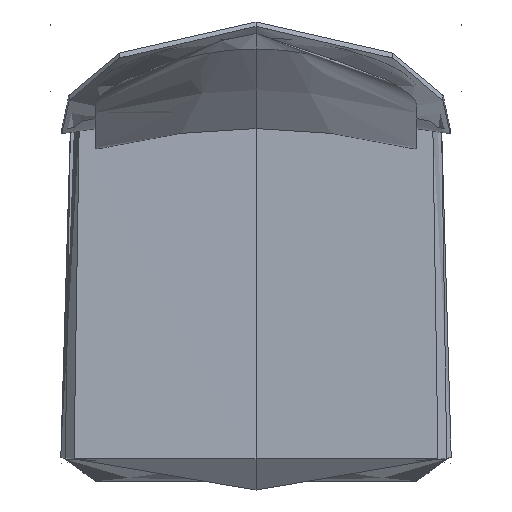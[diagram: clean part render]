
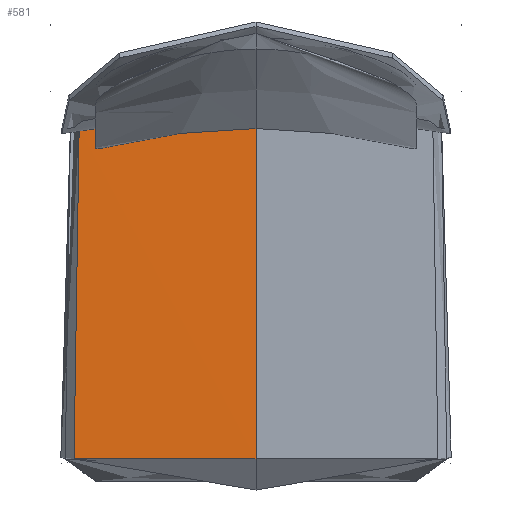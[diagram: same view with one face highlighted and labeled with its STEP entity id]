
A CAD part, top view. The second image highlights one B-rep face of the part: STEP entity #581.
In plain terms, the highlighted free-form (B-spline) face has degree [3, 3] with [4, 6] control points.
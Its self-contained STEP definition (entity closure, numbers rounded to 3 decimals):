
#581=ADVANCED_FACE('',(#1675),#20306,.T.);
#1675=FACE_OUTER_BOUND('',#2769,.T.);
#2769=EDGE_LOOP('',(#4427,#4428,#4429,#4430,#4431));
#4427=ORIENTED_EDGE('',*,*,#10788,.T.);
#4428=ORIENTED_EDGE('',*,*,#10776,.T.);
#4429=ORIENTED_EDGE('',*,*,#10777,.F.);
#4430=ORIENTED_EDGE('',*,*,#10787,.T.);
#4431=ORIENTED_EDGE('',*,*,#10795,.F.);
#10776=EDGE_CURVE('',#17204,#17206,#14080,.T.);
#10777=EDGE_CURVE('',#17205,#17206,#14081,.T.);
#10787=EDGE_CURVE('',#17205,#17212,#14091,.T.);
#10788=EDGE_CURVE('',#17214,#17204,#14092,.T.);
#10795=EDGE_CURVE('',#17214,#17212,#13928,.T.);
#13928=(
BOUNDED_CURVE()
B_SPLINE_CURVE(3,(#25692,#25693,#25694,#25695,#25696,#25697,#25698,#25699,
#25700,#25701,#25702,#25703,#25704,#25705,#25706,#25707,#25708,#25709,#25710,
#25711),.UNSPECIFIED.,.F.,.F.)
B_SPLINE_CURVE_WITH_KNOTS((4,3,3,1,1,1,1,1,1,1,3,4),(-0.392,
-0.39,6.301,10.816,15.904,21.689,
28.102,34.77,41.018,46.433,51.07,
56.446),.UNSPECIFIED.)
CURVE()
GEOMETRIC_REPRESENTATION_ITEM()
RATIONAL_B_SPLINE_CURVE((1.,1.,1.,1.,1.,1.,1.,1.,1.,1.,1.,
1.,1.,1.,1.,1.,1.,1.,1.,1.))
REPRESENTATION_ITEM('')
);
#14080=B_SPLINE_CURVE_WITH_KNOTS('',3,(#25456,#25457,#25458,#25459),
 .UNSPECIFIED.,.F.,.F.,(4,4),(0.,208.2),.UNSPECIFIED.);
#14081=B_SPLINE_CURVE_WITH_KNOTS('',3,(#25460,#25461,#25462,#25463,#25464,
#25465),.UNSPECIFIED.,.F.,.F.,(4,1,1,4),(-469.281,-336.575,
-192.091,-47.607),.UNSPECIFIED.);
#14091=B_SPLINE_CURVE_WITH_KNOTS('',3,(#25605,#25606,#25607,#25608),
 .UNSPECIFIED.,.F.,.F.,(4,4),(0.,169.177),.UNSPECIFIED.);
#14092=B_SPLINE_CURVE_WITH_KNOTS('',3,(#25609,#25610,#25611,#25612,#25613),
 .UNSPECIFIED.,.F.,.F.,(4,1,4),(235.672,614.063,616.504),
 .UNSPECIFIED.);
#17204=VERTEX_POINT('',#25426);
#17205=VERTEX_POINT('',#25427);
#17206=VERTEX_POINT('',#25428);
#17212=VERTEX_POINT('',#25434);
#17214=VERTEX_POINT('',#25436);
#20306=B_SPLINE_SURFACE_WITH_KNOTS('',3,3,((#23432,#23433,#23434,#23435,
#23436,#23437),(#23438,#23439,#23440,#23441,#23442,#23443),(#23444,#23445,
#23446,#23447,#23448,#23449),(#23450,#23451,#23452,#23453,#23454,#23455)),
 .UNSPECIFIED.,.F.,.F.,.F.,(4,4),(4,1,1,4),(0.,208.2),(47.607,
192.091,336.575,469.281),.UNSPECIFIED.);
#23432=CARTESIAN_POINT('',(-207.61,-200.8,469.081));
#23433=CARTESIAN_POINT('',(-206.89,-154.314,468.31));
#23434=CARTESIAN_POINT('',(-205.45,-61.344,466.768));
#23435=CARTESIAN_POINT('',(-203.349,74.323,464.518));
#23436=CARTESIAN_POINT('',(-201.968,163.504,463.038));
#23437=CARTESIAN_POINT('',(-201.307,206.2,462.33));
#23438=CARTESIAN_POINT('',(-138.406,-200.8,467.081));
#23439=CARTESIAN_POINT('',(-137.927,-164.428,466.478));
#23440=CARTESIAN_POINT('',(-136.967,-58.131,457.01));
#23441=CARTESIAN_POINT('',(-135.566,87.116,455.076));
#23442=CARTESIAN_POINT('',(-134.645,173.48,457.765));
#23443=CARTESIAN_POINT('',(-134.204,212.878,459.041));
#23444=CARTESIAN_POINT('',(-69.203,-200.8,466.081));
#23445=CARTESIAN_POINT('',(-68.963,-169.485,465.562));
#23446=CARTESIAN_POINT('',(-68.483,-56.525,452.131));
#23447=CARTESIAN_POINT('',(-67.783,93.513,450.355));
#23448=CARTESIAN_POINT('',(-67.323,178.468,455.129));
#23449=CARTESIAN_POINT('',(-67.102,216.217,457.396));
#23450=CARTESIAN_POINT('',(0.,-200.8,466.081));
#23451=CARTESIAN_POINT('',(0.,-169.485,465.562));
#23452=CARTESIAN_POINT('',(0.,-56.525,452.131));
#23453=CARTESIAN_POINT('',(0.,93.513,450.355));
#23454=CARTESIAN_POINT('',(0.,178.468,455.129));
#23455=CARTESIAN_POINT('',(0.,216.217,457.396));
#25426=CARTESIAN_POINT('',(-207.61,-200.8,469.081));
#25427=CARTESIAN_POINT('',(0.,216.217,457.396));
#25428=CARTESIAN_POINT('',(0.,-200.8,466.081));
#25434=CARTESIAN_POINT('',(-166.693,209.35,460.779));
#25436=CARTESIAN_POINT('',(-201.765,176.772,462.819));
#25456=CARTESIAN_POINT('',(-207.61,-200.8,469.081));
#25457=CARTESIAN_POINT('',(-138.406,-200.8,467.081));
#25458=CARTESIAN_POINT('',(-69.203,-200.8,466.081));
#25459=CARTESIAN_POINT('',(0.,-200.8,466.081));
#25460=CARTESIAN_POINT('',(0.,216.217,457.396));
#25461=CARTESIAN_POINT('',(0.,178.468,455.129));
#25462=CARTESIAN_POINT('',(0.,93.513,450.355));
#25463=CARTESIAN_POINT('',(0.,-56.525,452.131));
#25464=CARTESIAN_POINT('',(0.,-169.485,465.562));
#25465=CARTESIAN_POINT('',(0.,-200.8,466.081));
#25605=CARTESIAN_POINT('',(0.,216.217,457.396));
#25606=CARTESIAN_POINT('',(-55.652,216.219,457.396));
#25607=CARTESIAN_POINT('',(-111.239,213.917,458.528));
#25608=CARTESIAN_POINT('',(-166.693,209.35,460.779));
#25609=CARTESIAN_POINT('',(-201.765,176.772,462.819));
#25610=CARTESIAN_POINT('',(-203.697,51.693,464.897));
#25611=CARTESIAN_POINT('',(-205.651,-74.287,466.969));
#25612=CARTESIAN_POINT('',(-207.595,-199.785,469.083));
#25613=CARTESIAN_POINT('',(-207.61,-200.8,469.081));
#25692=CARTESIAN_POINT('',(-201.765,176.772,462.819));
#25693=CARTESIAN_POINT('',(-201.764,176.772,462.819));
#25694=CARTESIAN_POINT('',(-201.763,176.772,462.819));
#25695=CARTESIAN_POINT('',(-201.762,176.772,462.819));
#25696=CARTESIAN_POINT('',(-199.541,176.811,462.669));
#25697=CARTESIAN_POINT('',(-197.319,176.863,462.52));
#25698=CARTESIAN_POINT('',(-195.1,176.969,462.373));
#25699=CARTESIAN_POINT('',(-193.602,177.041,462.274));
#25700=CARTESIAN_POINT('',(-190.422,177.258,462.064));
#25701=CARTESIAN_POINT('',(-185.365,178.026,461.733));
#25702=CARTESIAN_POINT('',(-179.891,179.81,461.385));
#25703=CARTESIAN_POINT('',(-174.545,183.167,461.064));
#25704=CARTESIAN_POINT('',(-170.339,188.106,460.842));
#25705=CARTESIAN_POINT('',(-167.892,193.742,460.742));
#25706=CARTESIAN_POINT('',(-166.881,199.09,460.725));
#25707=CARTESIAN_POINT('',(-166.675,202.435,460.736));
#25708=CARTESIAN_POINT('',(-166.633,203.979,460.744));
#25709=CARTESIAN_POINT('',(-166.59,205.769,460.753));
#25710=CARTESIAN_POINT('',(-166.606,207.562,460.765));
#25711=CARTESIAN_POINT('',(-166.693,209.35,460.779));
